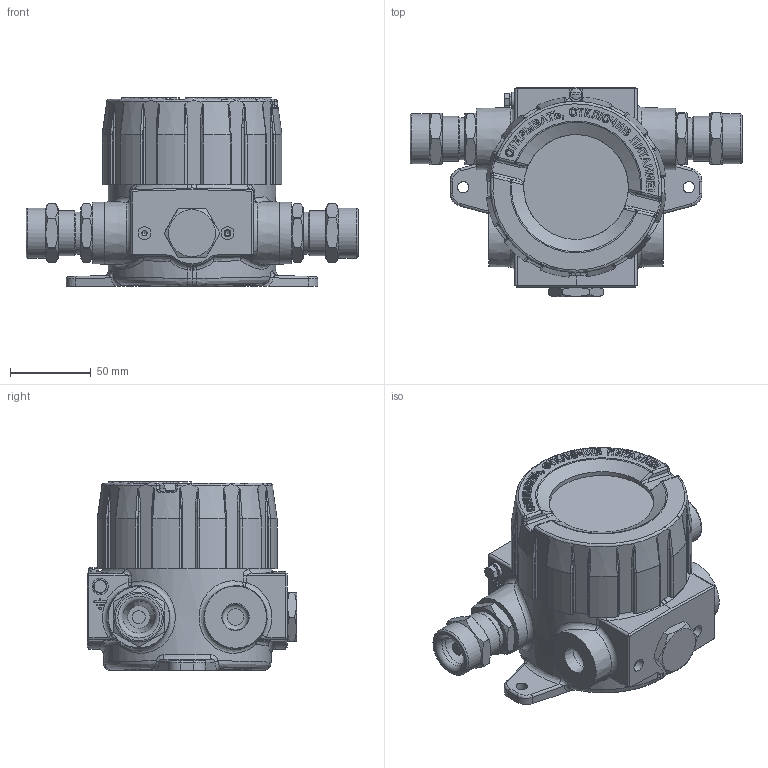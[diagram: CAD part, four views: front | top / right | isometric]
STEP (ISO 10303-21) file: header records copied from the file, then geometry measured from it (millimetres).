
FILE_DESCRIPTION(('STEP AP203'), '1');
FILE_NAME('ﾂﾓﾓﾊ-ﾁﾏ-ﾓﾇﾀ-220ﾂ-ﾓﾊﾁﾊ16', '', ('UNSPECIFIED'), ('UNSPECIFIED'), 'C3D Converter', 'C3D Toolkit', '');
FILE_SCHEMA(('CONFIG_CONTROL_DESIGN'));
Length unit declared in the file: millimetre
Products named in the file (1): СЕНС.301156.036 СБ
Bounding box: 206 x 130 x 117 mm (x, y, z)
Volume: 593251.8 mm3; surface area: 164714.3 mm2
Topology: 16 solids, 17 shells, 1198 faces, 3033 edges, 1887 vertices
Faces by surface type: plane 525, cylinder 237, bspline 172, cone 106, extrusion 96, torus 51, sphere 8, revolution 3
Full cylindrical faces by diameter (mm): 2 x4, 3.242 x7, 4 x1, 4.134 x2, 5 x1, 5.3 x1, 7 x3, 8 x6, 10 x1, 13 x2, 20 x2, 23 x3, 23.376 x6, 23.5 x2, 24 x2, 26 x4, 26.376 x2, 28 x2, 31 x2, 65 x1, 80 x1, 90 x2, 91 x1, 92 x1, 97 x2, 98.377 x2, 101 x1
Entity records: 104068 total; most frequent: CARTESIAN_POINT 78160, ORIENTED_EDGE 5653, DIRECTION 4451, EDGE_CURVE 2827, VERTEX_POINT 1877, AXIS2_PLACEMENT_3D 1524, EDGE_LOOP 1451, VECTOR 1400
